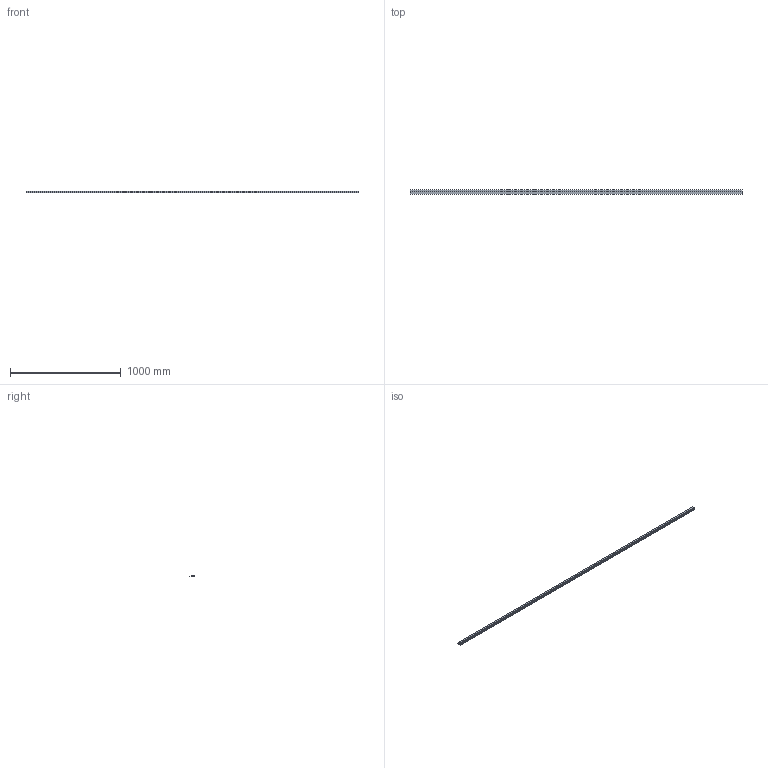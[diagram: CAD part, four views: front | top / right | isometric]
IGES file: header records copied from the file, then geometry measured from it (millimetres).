
Start section: Data from Parasolid IGES Translator 20.0.26, Copyright(c) 2006 Siemens P LM Software. All Rights Reserved.
Global section: file name: 9298802.igs; native system: By Siemens PLM Incorporated; preprocessor: XPlus GENERIC/IGES 20.0.26; author: Noname; organization: Noname; date: 20210826.182351; units: millimetre
Bounding box: 3000 x 38.8 x 18 mm (x, y, z)
Surface area: 577647.5 mm2 (no closed solid volume)
Topology: 0 solids, 0 shells, 44 faces, 252 edges, 252 vertices
Faces by surface type: extrusion 44
